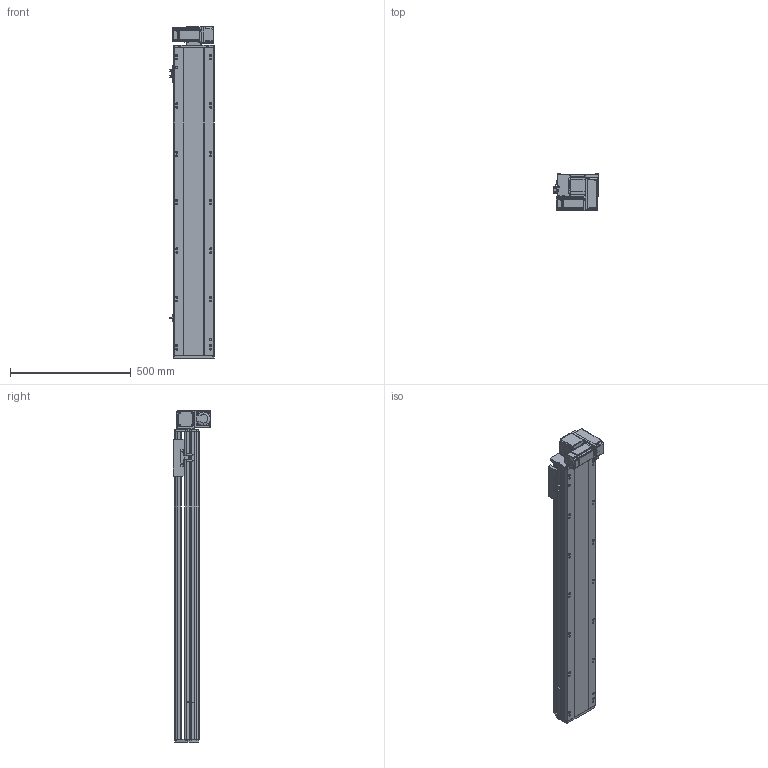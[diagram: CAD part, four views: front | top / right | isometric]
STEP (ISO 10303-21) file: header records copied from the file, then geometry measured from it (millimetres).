
FILE_DESCRIPTION (( 'STEP AP214' ), '1' );
FILE_NAME ('RTB17S-XX-1000-RM-M40-C4.STEP', '2025-12-11T08:16:29', ( '' ), ( '' ), 'SwSTEP 2.0', 'SolidWorks 2018', '' );
FILE_SCHEMA (( 'AUTOMOTIVE_DESIGN' ));
Length unit declared in the file: millimetre
Products named in the file (14): RTB17S-RM-々湍釱蚾饜-400W^RTB17S-XX-XX-RM-M40-C4; RTB14-L-017P^RTB17S-RM-々湍釱蚾饜-400W_RTB17S-XX-XX-RM-M40-C4; RTB14-L-008-M20--萇儂啣^RTB17S-RM-々湍釱蚾饜-400W_RTB17S-XX-XX-RM-M40-C4; RTB17-R-011菁釱^RTB17S-XX-XX-RM-M40-C4; RTB17S-XX-1000-RM-M40-C4; OMRON EE-SX672 传感器^RTB17S-XX-XX-RM-M40-C4; RTB17S-L-007奻裔^RTB17S-XX-XX-RM-M40-C4; 400W侜督萇儂^RTB17S-XX-XX-RM-M40-C4; RTB17S-L-014-T20--々湍釱^RTB17S-RM-々湍釱蚾饜-400W_RTB17S-XX-XX-RM-M40-C4; RTH13-BL-012覜茼え俋离^RTB17S-XX-XX-RM-M40-C4; RTB17S-L-004佪裝蹟譫蟀諉釱^RTB17S-XX-XX-RM-M40-C4; RTB14-L-005P--轴承塑胶压盖^RTB17S-RM-皮带座装配-400W_RTB17S-XX-XX-RM-M40-C4; RTB14-L-018P^RTB17S-RM-々湍釱蚾饜-400W_RTB17S-XX-XX-RM-M40-C4; RTB17S-L-001耜醱啣^RTB17S-XX-XX-RM-M40-C4
Assembly tree (16 placements, depth 3):
  RTB17S-XX-1000-RM-M40-C4
    RTB17-R-011菁釱^RTB17S-XX-XX-RM-M40-C4
    RTB17S-L-007奻裔^RTB17S-XX-XX-RM-M40-C4
    OMRON EE-SX672 传感器^RTB17S-XX-XX-RM-M40-C4  x3
    RTB17S-L-001耜醱啣^RTB17S-XX-XX-RM-M40-C4
    400W侜督萇儂^RTB17S-XX-XX-RM-M40-C4
    RTB17S-L-004佪裝蹟譫蟀諉釱^RTB17S-XX-XX-RM-M40-C4
    RTH13-BL-012覜茼え俋离^RTB17S-XX-XX-RM-M40-C4
    RTB17S-RM-々湍釱蚾饜-400W^RTB17S-XX-XX-RM-M40-C4
      RTB17S-L-014-T20--々湍釱^RTB17S-RM-々湍釱蚾饜-400W_RTB17S-XX-XX-RM-M40-C4
      RTB14-L-005P--轴承塑胶压盖^RTB17S-RM-皮带座装配-400W_RTB17S-XX-XX-RM-M40-C4
      RTB14-L-008-M20--萇儂啣^RTB17S-RM-々湍釱蚾饜-400W_RTB17S-XX-XX-RM-M40-C4
      RTB14-L-017P^RTB17S-RM-々湍釱蚾饜-400W_RTB17S-XX-XX-RM-M40-C4  x2
      RTB14-L-018P^RTB17S-RM-々湍釱蚾饜-400W_RTB17S-XX-XX-RM-M40-C4
Bounding box: 183.5 x 156.5 x 1372.5 mm (x, y, z)
Volume: 12376987.7 mm3; surface area: 1497165.5 mm2
Topology: 15 solids, 15 shells, 2205 faces, 6087 edges, 3969 vertices
Faces by surface type: plane 1068, cylinder 689, bspline 301, cone 139, torus 8
Entity records: 62633 total; most frequent: CARTESIAN_POINT 17492, ORIENTED_EDGE 9018, DIRECTION 8396, EDGE_CURVE 4509, VERTEX_POINT 2957, AXIS2_PLACEMENT_3D 2887, LINE 2622, VECTOR 2622
